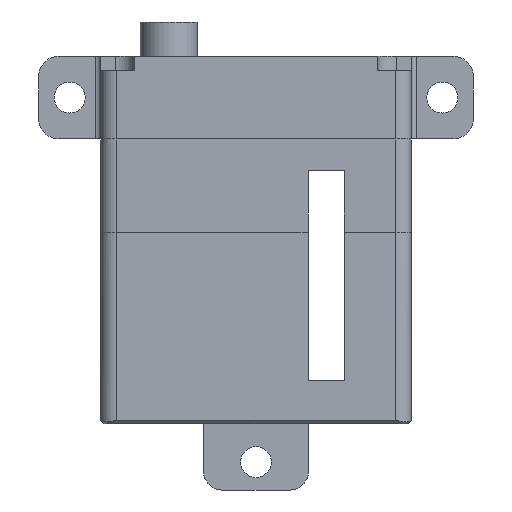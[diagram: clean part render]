
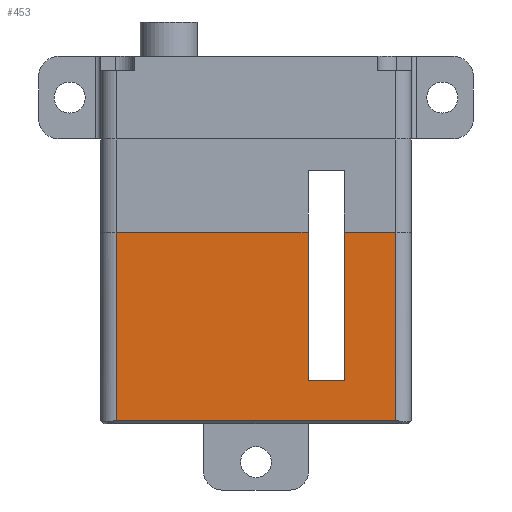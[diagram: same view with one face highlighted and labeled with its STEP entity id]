
A CAD part, front view. The second image highlights one B-rep face of the part: STEP entity #453.
In plain terms, the highlighted planar face has unit normal (0, -1, 0).
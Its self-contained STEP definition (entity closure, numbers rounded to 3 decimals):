
#453=ADVANCED_FACE('',(#799),#612,.T.);
#612=PLANE('',#4691);
#799=FACE_OUTER_BOUND('',#1071,.T.);
#1071=EDGE_LOOP('',(#2775,#2776,#2777,#2778,#2779,#2780,#2781,#2782));
#1417=LINE('',#7052,#1792);
#1427=LINE('',#7080,#1802);
#1428=LINE('',#7082,#1803);
#1429=LINE('',#7084,#1804);
#1430=LINE('',#7086,#1805);
#1431=LINE('',#7088,#1806);
#1432=LINE('',#7090,#1807);
#1433=LINE('',#7092,#1808);
#1792=VECTOR('',#5733,1.);
#1802=VECTOR('',#5757,1.);
#1803=VECTOR('',#5758,1.);
#1804=VECTOR('',#5759,1.);
#1805=VECTOR('',#5760,1.);
#1806=VECTOR('',#5761,1.);
#1807=VECTOR('',#5762,1.);
#1808=VECTOR('',#5763,1.);
#2775=ORIENTED_EDGE('',*,*,#3988,.F.);
#2776=ORIENTED_EDGE('',*,*,#3974,.T.);
#2777=ORIENTED_EDGE('',*,*,#3989,.T.);
#2778=ORIENTED_EDGE('',*,*,#3990,.F.);
#2779=ORIENTED_EDGE('',*,*,#3991,.F.);
#2780=ORIENTED_EDGE('',*,*,#3992,.T.);
#2781=ORIENTED_EDGE('',*,*,#3993,.F.);
#2782=ORIENTED_EDGE('',*,*,#3994,.F.);
#3418=VERTEX_POINT('',#7032);
#3428=VERTEX_POINT('',#7051);
#3440=VERTEX_POINT('',#7081);
#3441=VERTEX_POINT('',#7083);
#3442=VERTEX_POINT('',#7085);
#3443=VERTEX_POINT('',#7087);
#3444=VERTEX_POINT('',#7089);
#3445=VERTEX_POINT('',#7091);
#3974=EDGE_CURVE('',#3418,#3428,#1417,.T.);
#3988=EDGE_CURVE('',#3418,#3440,#1427,.T.);
#3989=EDGE_CURVE('',#3428,#3441,#1428,.T.);
#3990=EDGE_CURVE('',#3442,#3441,#1429,.T.);
#3991=EDGE_CURVE('',#3443,#3442,#1430,.T.);
#3992=EDGE_CURVE('',#3443,#3444,#1431,.T.);
#3993=EDGE_CURVE('',#3445,#3444,#1432,.T.);
#3994=EDGE_CURVE('',#3440,#3445,#1433,.T.);
#4691=AXIS2_PLACEMENT_3D('',#7093,#5764,#5765);
#5733=DIRECTION('',(-1.,0.,0.));
#5757=DIRECTION('',(0.,0.,-1.));
#5758=DIRECTION('',(0.,0.,-1.));
#5759=DIRECTION('',(-1.,0.,0.));
#5760=DIRECTION('',(0.,0.,-1.));
#5761=DIRECTION('',(-1.,0.,0.));
#5762=DIRECTION('',(0.,0.,1.));
#5763=DIRECTION('',(1.,0.,0.));
#5764=DIRECTION('',(0.,-1.,0.));
#5765=DIRECTION('',(1.,0.,0.));
#7032=CARTESIAN_POINT('',(5.025,-5.,-9.));
#7051=CARTESIAN_POINT('',(-13.5,-5.,-9.));
#7052=CARTESIAN_POINT('',(0.,-5.,-9.));
#7080=CARTESIAN_POINT('',(5.025,-5.,-9.));
#7081=CARTESIAN_POINT('',(5.025,-5.,-23.35));
#7082=CARTESIAN_POINT('',(-13.5,-5.,-9.054));
#7083=CARTESIAN_POINT('',(-13.5,-5.,-27.2));
#7084=CARTESIAN_POINT('',(13.75,-5.,-27.2));
#7085=CARTESIAN_POINT('',(13.5,-5.,-27.2));
#7086=CARTESIAN_POINT('',(13.5,-5.,-9.054));
#7087=CARTESIAN_POINT('',(13.5,-5.,-9.));
#7088=CARTESIAN_POINT('',(0.,-5.,-9.));
#7089=CARTESIAN_POINT('',(8.525,-5.,-9.));
#7090=CARTESIAN_POINT('',(8.525,-5.,-9.));
#7091=CARTESIAN_POINT('',(8.525,-5.,-23.35));
#7092=CARTESIAN_POINT('',(0.,-5.,-23.35));
#7093=CARTESIAN_POINT('',(15.,-5.,-9.));
